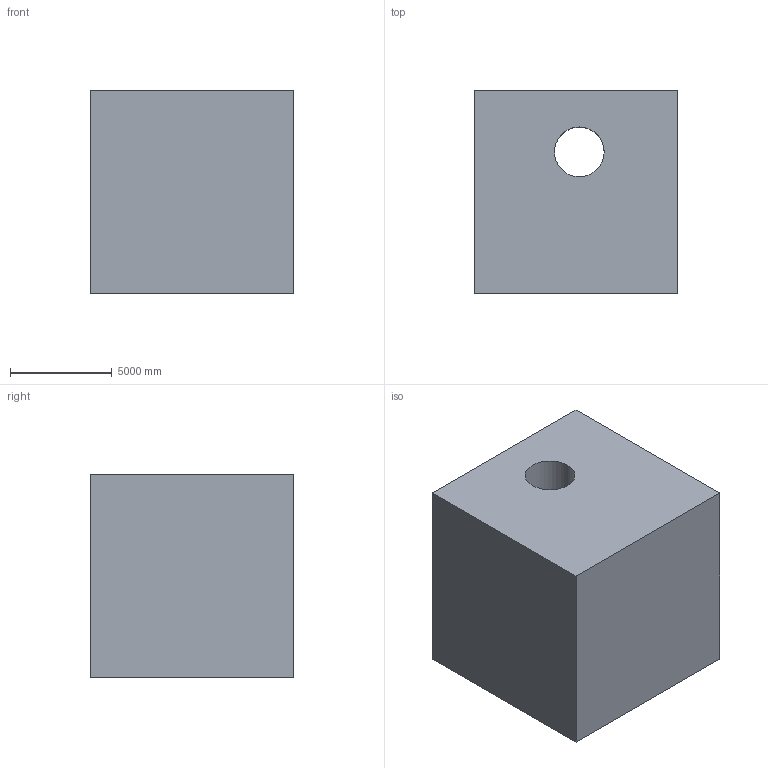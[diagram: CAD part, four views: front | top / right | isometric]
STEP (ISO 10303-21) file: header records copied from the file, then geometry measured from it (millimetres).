
FILE_DESCRIPTION (( 'STEP AP203' ), '1' );
FILE_NAME ('1125.STEP', '2022-08-18T12:51:35', ( 'user' ), ( '' ), 'SwSTEP 2.0', 'SolidWorks 2021', '' );
FILE_SCHEMA (( 'CONFIG_CONTROL_DESIGN' ));
Length unit declared in the file: centimetre
Products named in the file (1): 1125
Bounding box: 10000 x 10000 x 10000 mm (x, y, z)
Volume: 911103931302.8 mm3; surface area: 709702916.9 mm2
Topology: 1 solids, 1 shells, 11 faces, 24 edges, 16 vertices
Faces by surface type: plane 7, cylinder 4
Entity records: 387 total; most frequent: DIRECTION 56, CARTESIAN_POINT 52, ORIENTED_EDGE 48, EDGE_CURVE 24, AXIS2_PLACEMENT_3D 20, VECTOR 16, VERTEX_POINT 16, LINE 16
